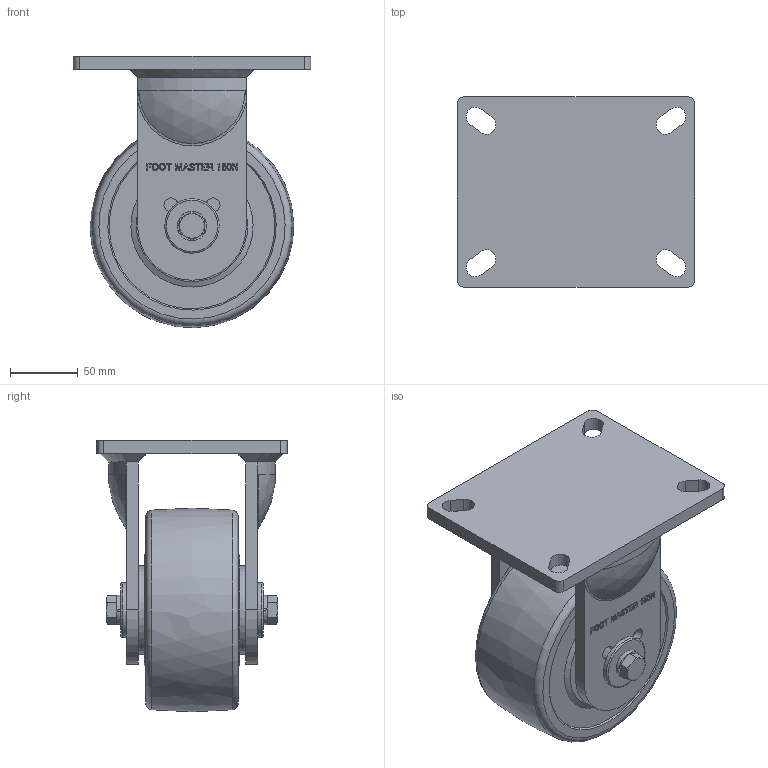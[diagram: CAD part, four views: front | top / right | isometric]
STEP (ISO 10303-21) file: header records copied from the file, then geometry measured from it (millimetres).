
FILE_DESCRIPTION(/* description */ (''),/* implementation_level */ '2;1');
FILE_NAME(/* name */ 'Y:\1.기술연구소\2.연구개발 진행중\133.고하중캐스터 브레이크 타입 변경건_2025.11.03\1.도면\4.홈페이지용 도면\01. 3D\GXT-150 SERIES\GXT-150-STEP\GXT-150N-ARF-MCD.stp',/* time_stamp */ '2026-07-21T17:29:11+09:00',/* author */ ('장용하'),/* organization */ (''),/* preprocessor_version */ 'ST-DEVELOPER v18.1',/* originating_system */ 'Autodesk Inventor 2021',/* authorisation */ '');
FILE_SCHEMA (('CONFIG_CONTROL_DESIGN'));
Length unit declared in the file: millimetre
Products named in the file (1): GXT-150N-ARF-MCD
Bounding box: 175 x 140 x 199.97 mm (x, y, z)
Volume: 1678397.2 mm3; surface area: 164048.4 mm2
Topology: 1 solids, 1 shells, 605 faces, 1643 edges, 1088 vertices
Faces by surface type: plane 312, bspline 213, cylinder 48, cone 18, torus 10, sphere 4
Full cylindrical faces by diameter (mm): 12 x2, 21.5 x2, 40 x2, 65 x2
Entity records: 19717 total; most frequent: CARTESIAN_POINT 5719, ORIENTED_EDGE 3286, DIRECTION 2186, EDGE_CURVE 1643, VERTEX_POINT 1088, LINE 990, VECTOR 990, EDGE_LOOP 667
